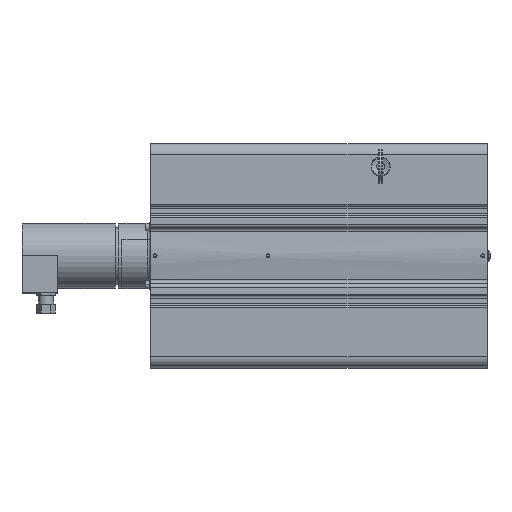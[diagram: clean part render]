
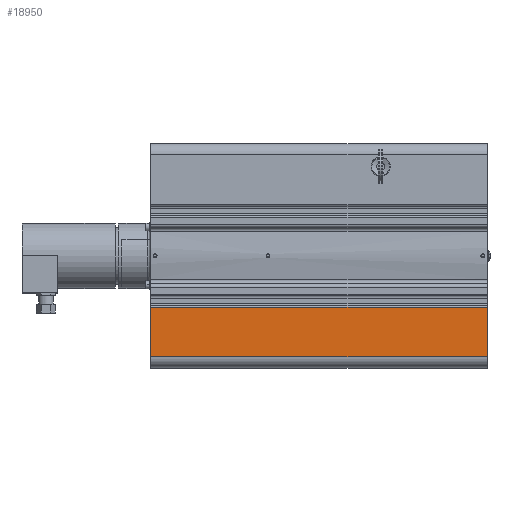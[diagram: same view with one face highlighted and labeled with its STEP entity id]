
A CAD part, top view. The second image highlights one B-rep face of the part: STEP entity #18950.
In plain terms, the highlighted planar face has unit normal (0, 0, 1).
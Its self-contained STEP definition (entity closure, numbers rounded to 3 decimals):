
#417=DIRECTION('',(0.,1.,0.));
#418=VECTOR('',#417,44.275);
#419=CARTESIAN_POINT('',(0.,-89.95,100.));
#420=LINE('',#419,#418);
#5074=DIRECTION('',(1.,0.,0.));
#5075=VECTOR('',#5074,300.);
#5076=CARTESIAN_POINT('',(-300.,-89.95,100.));
#5077=LINE('',#5076,#5075);
#5082=DIRECTION('',(0.,1.,0.));
#5083=VECTOR('',#5082,44.275);
#5084=CARTESIAN_POINT('',(-300.,-89.95,100.));
#5085=LINE('',#5084,#5083);
#5086=DIRECTION('',(-1.,0.,0.));
#5087=VECTOR('',#5086,300.);
#5088=CARTESIAN_POINT('',(0.,-45.675,100.));
#5089=LINE('',#5088,#5087);
#12249=CARTESIAN_POINT('',(0.,-89.95,100.));
#12250=VERTEX_POINT('',#12249);
#12251=CARTESIAN_POINT('',(0.,-45.675,100.));
#12252=VERTEX_POINT('',#12251);
#12919=CARTESIAN_POINT('',(-300.,-45.675,100.));
#12920=VERTEX_POINT('',#12919);
#12921=CARTESIAN_POINT('',(-300.,-89.95,100.));
#12922=VERTEX_POINT('',#12921);
#18938=CARTESIAN_POINT('',(0.,100.05,100.));
#18939=DIRECTION('',(0.,0.,1.));
#18940=DIRECTION('',(0.,-1.,0.));
#18941=AXIS2_PLACEMENT_3D('',#18938,#18939,#18940);
#18942=PLANE('',#18941);
#18944=ORIENTED_EDGE('',*,*,#18943,.F.);
#18945=ORIENTED_EDGE('',*,*,#13278,.F.);
#18946=ORIENTED_EDGE('',*,*,#18931,.F.);
#18947=ORIENTED_EDGE('',*,*,#13928,.T.);
#18948=EDGE_LOOP('',(#18944,#18945,#18946,#18947));
#18949=FACE_OUTER_BOUND('',#18948,.F.);
#18950=ADVANCED_FACE('',(#18949),#18942,.T.);
#13278=EDGE_CURVE('',#12250,#12252,#420,.T.);
#13928=EDGE_CURVE('',#12922,#12920,#5085,.T.);
#18931=EDGE_CURVE('',#12922,#12250,#5077,.T.);
#18943=EDGE_CURVE('',#12252,#12920,#5089,.T.);
